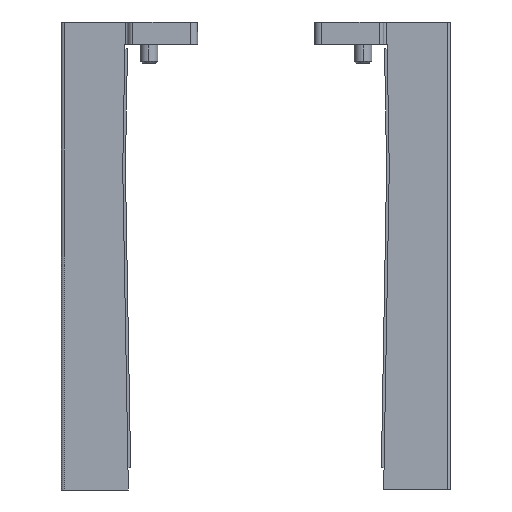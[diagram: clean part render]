
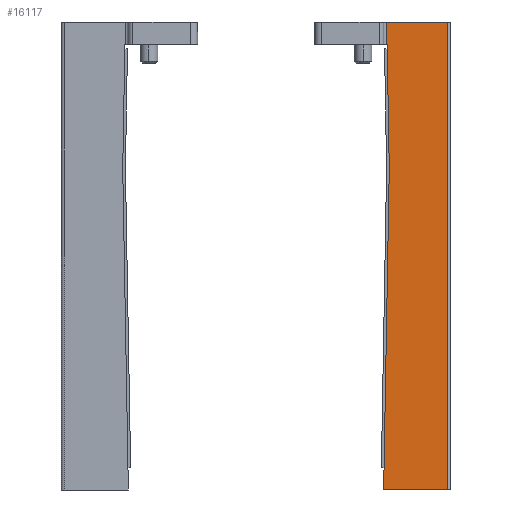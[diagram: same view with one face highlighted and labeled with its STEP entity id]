
A CAD part, front view. The second image highlights one B-rep face of the part: STEP entity #16117.
In plain terms, the highlighted planar face has unit normal (0, -1, 0).
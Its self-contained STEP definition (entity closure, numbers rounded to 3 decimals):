
#39 = CARTESIAN_POINT ( 'NONE',  ( 21.52, -13.5, -50. ) ) ;
#135 = VECTOR ( 'NONE', #8500, 1000. ) ;
#147 = LINE ( 'NONE', #16109, #14519 ) ;
#234 = ORIENTED_EDGE ( 'NONE', *, *, #16646, .T. ) ;
#295 = VERTEX_POINT ( 'NONE', #39 ) ;
#1236 = VERTEX_POINT ( 'NONE', #6035 ) ;
#1854 = CARTESIAN_POINT ( 'NONE',  ( 14.707, -13.5, 0. ) ) ;
#2128 = DIRECTION ( 'NONE',  ( 0.017, 0., 1. ) ) ;
#2217 = VECTOR ( 'NONE', #16846, 1000. ) ;
#2591 = FACE_OUTER_BOUND ( 'NONE', #12982, .T. ) ;
#3906 = LINE ( 'NONE', #9077, #13697 ) ;
#4610 = EDGE_CURVE ( 'NONE', #1236, #16601, #12929, .T. ) ;
#5101 = LINE ( 'NONE', #5470, #7524 ) ;
#5110 = PLANE ( 'NONE',  #10455 ) ;
#5470 = CARTESIAN_POINT ( 'NONE',  ( 14.32, -13.5, 22.2 ) ) ;
#5709 = ORIENTED_EDGE ( 'NONE', *, *, #12926, .F. ) ;
#5805 = DIRECTION ( 'NONE',  ( 0., 0., 1. ) ) ;
#6035 = CARTESIAN_POINT ( 'NONE',  ( 14.32, -13.5, -50. ) ) ;
#6302 = EDGE_CURVE ( 'NONE', #1236, #295, #11804, .T. ) ;
#6372 = CARTESIAN_POINT ( 'NONE',  ( 14.625, -13.5, 2.5 ) ) ;
#6393 = CARTESIAN_POINT ( 'NONE',  ( 14.707, -13.5, 2.5 ) ) ;
#7524 = VECTOR ( 'NONE', #17062, 1000. ) ;
#7973 = ORIENTED_EDGE ( 'NONE', *, *, #4610, .F. ) ;
#8075 = CARTESIAN_POINT ( 'NONE',  ( 14.32, -13.5, -50. ) ) ;
#8245 = LINE ( 'NONE', #13548, #135 ) ;
#8500 = DIRECTION ( 'NONE',  ( 0., 0., -1. ) ) ;
#8821 = EDGE_CURVE ( 'NONE', #12128, #9388, #3906, .T. ) ;
#8863 = VERTEX_POINT ( 'NONE', #6372 ) ;
#9077 = CARTESIAN_POINT ( 'NONE',  ( 14.707, -13.5, 0. ) ) ;
#9276 = ORIENTED_EDGE ( 'NONE', *, *, #8821, .T. ) ;
#9388 = VERTEX_POINT ( 'NONE', #1854 ) ;
#9873 = ORIENTED_EDGE ( 'NONE', *, *, #12458, .F. ) ;
#9981 = ORIENTED_EDGE ( 'NONE', *, *, #11195, .T. ) ;
#10455 = AXIS2_PLACEMENT_3D ( 'NONE', #10456, #16028, #14734 ) ;
#10456 = CARTESIAN_POINT ( 'NONE',  ( 14.32, -13.5, -50. ) ) ;
#10891 = ORIENTED_EDGE ( 'NONE', *, *, #6302, .T. ) ;
#10962 = CARTESIAN_POINT ( 'NONE',  ( 21.52, -13.5, 2.5 ) ) ;
#11195 = EDGE_CURVE ( 'NONE', #295, #13470, #147, .T. ) ;
#11344 = VECTOR ( 'NONE', #2128, 1000. ) ;
#11637 = CARTESIAN_POINT ( 'NONE',  ( 14.95, -13.5, -13.9 ) ) ;
#11804 = LINE ( 'NONE', #8075, #13816 ) ;
#12128 = VERTEX_POINT ( 'NONE', #14202 ) ;
#12458 = EDGE_CURVE ( 'NONE', #8863, #13470, #16760, .T. ) ;
#12926 = EDGE_CURVE ( 'NONE', #16601, #9388, #5101, .T. ) ;
#12929 = LINE ( 'NONE', #11637, #11344 ) ;
#12982 = EDGE_LOOP ( 'NONE', ( #9873, #234, #9276, #5709, #7973, #10891, #9981 ) ) ;
#13114 = DIRECTION ( 'NONE',  ( 1., 0., 0. ) ) ;
#13470 = VERTEX_POINT ( 'NONE', #10962 ) ;
#13548 = CARTESIAN_POINT ( 'NONE',  ( 14.625, -13.5, 0. ) ) ;
#13697 = VECTOR ( 'NONE', #15782, 1000. ) ;
#13816 = VECTOR ( 'NONE', #13114, 1000. ) ;
#14202 = CARTESIAN_POINT ( 'NONE',  ( 14.625, -13.5, 0. ) ) ;
#14519 = VECTOR ( 'NONE', #5805, 1000. ) ;
#14734 = DIRECTION ( 'NONE',  ( 1., 0., 0. ) ) ;
#15039 = CARTESIAN_POINT ( 'NONE',  ( 14.95, -13.5, -13.9 ) ) ;
#15782 = DIRECTION ( 'NONE',  ( 1., 0., 0. ) ) ;
#16028 = DIRECTION ( 'NONE',  ( 0., -1., 0. ) ) ;
#16109 = CARTESIAN_POINT ( 'NONE',  ( 21.52, -13.5, -50. ) ) ;
#16117 = ADVANCED_FACE ( 'NONE', ( #2591 ), #5110, .T. ) ;
#16601 = VERTEX_POINT ( 'NONE', #15039 ) ;
#16646 = EDGE_CURVE ( 'NONE', #8863, #12128, #8245, .T. ) ;
#16760 = LINE ( 'NONE', #6393, #2217 ) ;
#16846 = DIRECTION ( 'NONE',  ( 1., 0., 0. ) ) ;
#17062 = DIRECTION ( 'NONE',  ( -0.017, 0., 1. ) ) ;
